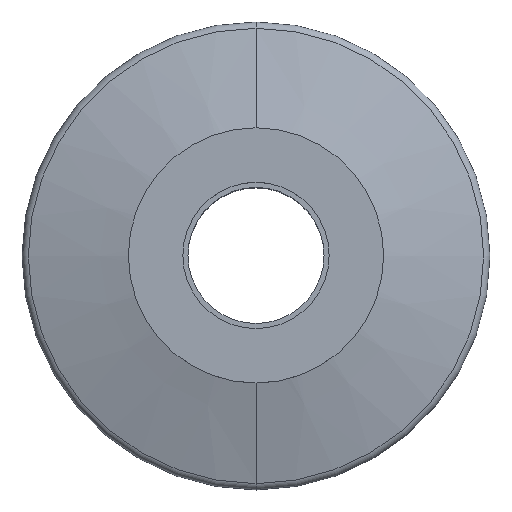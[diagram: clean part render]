
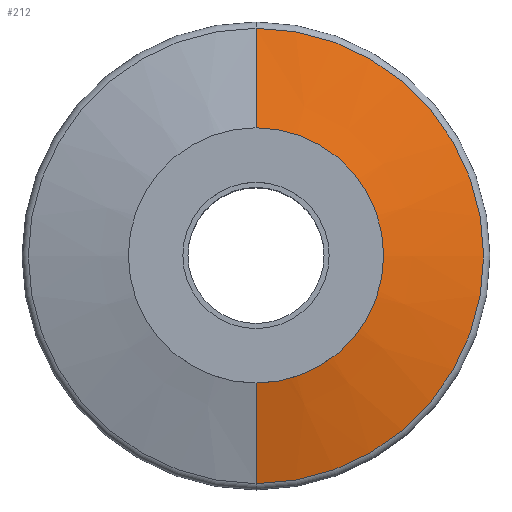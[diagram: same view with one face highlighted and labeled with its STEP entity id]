
A CAD part, top view. The second image highlights one B-rep face of the part: STEP entity #212.
In plain terms, the highlighted conical face has half-angle 75 degrees and reference radius 10 mm.
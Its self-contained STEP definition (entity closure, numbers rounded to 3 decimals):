
#16 = ORIENTED_EDGE ( 'NONE', *, *, #94, .T. ) ;
#60 = LINE ( 'NONE', #516, #469 ) ;
#74 = ORIENTED_EDGE ( 'NONE', *, *, #184, .F. ) ;
#76 = VECTOR ( 'NONE', #641, 1000. ) ;
#80 = EDGE_CURVE ( 'NONE', #192, #297, #111, .T. ) ;
#94 = EDGE_CURVE ( 'NONE', #410, #192, #60, .T. ) ;
#96 = DIRECTION ( 'NONE',  ( 0., -0.966, -0.259 ) ) ;
#100 = CONICAL_SURFACE ( 'NONE', #589, 10., 1.309 ) ;
#101 = DIRECTION ( 'NONE',  ( 0., -1., 0. ) ) ;
#111 = CIRCLE ( 'NONE', #632, 26.759 ) ;
#131 = CIRCLE ( 'NONE', #197, 10. ) ;
#152 = EDGE_CURVE ( 'NONE', #300, #297, #415, .T. ) ;
#184 = EDGE_CURVE ( 'NONE', #410, #300, #131, .T. ) ;
#192 = VERTEX_POINT ( 'NONE', #218 ) ;
#197 = AXIS2_PLACEMENT_3D ( 'NONE', #594, #385, #329 ) ;
#212 = ADVANCED_FACE ( 'NONE', ( #483 ), #100, .T. ) ;
#218 = CARTESIAN_POINT ( 'NONE',  ( 0., -26.759, -36.801 ) ) ;
#268 = ORIENTED_EDGE ( 'NONE', *, *, #152, .F. ) ;
#297 = VERTEX_POINT ( 'NONE', #608 ) ;
#300 = VERTEX_POINT ( 'NONE', #392 ) ;
#329 = DIRECTION ( 'NONE',  ( 0., -1., 0. ) ) ;
#359 = CARTESIAN_POINT ( 'NONE',  ( 0., 0., -36.801 ) ) ;
#385 = DIRECTION ( 'NONE',  ( 0., 0., 1. ) ) ;
#392 = CARTESIAN_POINT ( 'NONE',  ( 0., 10., -32.311 ) ) ;
#410 = VERTEX_POINT ( 'NONE', #513 ) ;
#415 = LINE ( 'NONE', #497, #76 ) ;
#422 = DIRECTION ( 'NONE',  ( 0., 0., -1. ) ) ;
#464 = ORIENTED_EDGE ( 'NONE', *, *, #80, .T. ) ;
#469 = VECTOR ( 'NONE', #96, 1000. ) ;
#478 = DIRECTION ( 'NONE',  ( 0., 1., 0. ) ) ;
#483 = FACE_OUTER_BOUND ( 'NONE', #639, .T. ) ;
#497 = CARTESIAN_POINT ( 'NONE',  ( 0., 10., -32.311 ) ) ;
#513 = CARTESIAN_POINT ( 'NONE',  ( 0., -10., -32.311 ) ) ;
#516 = CARTESIAN_POINT ( 'NONE',  ( 0., -10., -32.311 ) ) ;
#572 = DIRECTION ( 'NONE',  ( 0., 0., 1. ) ) ;
#589 = AXIS2_PLACEMENT_3D ( 'NONE', #622, #422, #478 ) ;
#594 = CARTESIAN_POINT ( 'NONE',  ( 0., 0., -32.311 ) ) ;
#608 = CARTESIAN_POINT ( 'NONE',  ( 0., 26.759, -36.801 ) ) ;
#622 = CARTESIAN_POINT ( 'NONE',  ( 0., 0., -32.311 ) ) ;
#632 = AXIS2_PLACEMENT_3D ( 'NONE', #359, #572, #101 ) ;
#639 = EDGE_LOOP ( 'NONE', ( #74, #16, #464, #268 ) ) ;
#641 = DIRECTION ( 'NONE',  ( 0., 0.966, -0.259 ) ) ;
